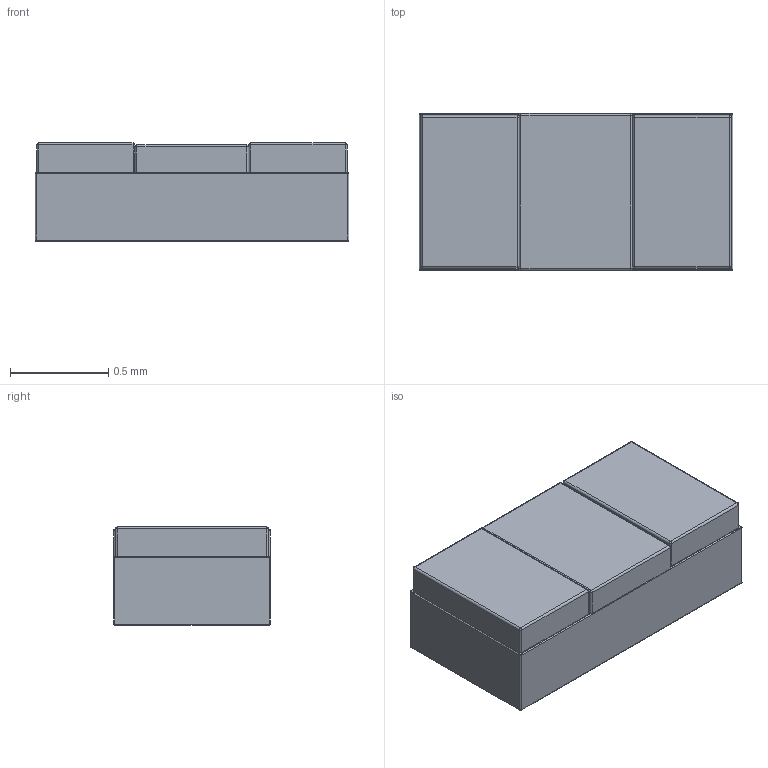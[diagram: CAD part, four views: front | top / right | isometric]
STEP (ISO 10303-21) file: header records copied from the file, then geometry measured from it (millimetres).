
FILE_DESCRIPTION(('STEP AP203'), '1');
FILE_NAME('R2-105-0603', '', ('UNSPECIFIED'), ('UNSPECIFIED'), 'ASCON STEP Converter 1.6', 'ASCON Math Kernel', '');
FILE_SCHEMA(('CONFIG_CONTROL_DESIGN'));
Length unit declared in the file: millimetre
Bounding box: 1.6 x 0.8 x 0.5 mm (x, y, z)
Volume: 0.6 mm3; surface area: 8.1 mm2
Topology: 4 solids, 5 shells, 99 faces, 227 edges, 118 vertices
Faces by surface type: cylinder 40, plane 39, sphere 20
Entity records: 3437 total; most frequent: DIRECTION 487, CARTESIAN_POINT 425, ORIENTED_EDGE 414, EDGE_CURVE 207, AXIS2_PLACEMENT_3D 180, LINE 127, VECTOR 127, VERTEX_POINT 118
